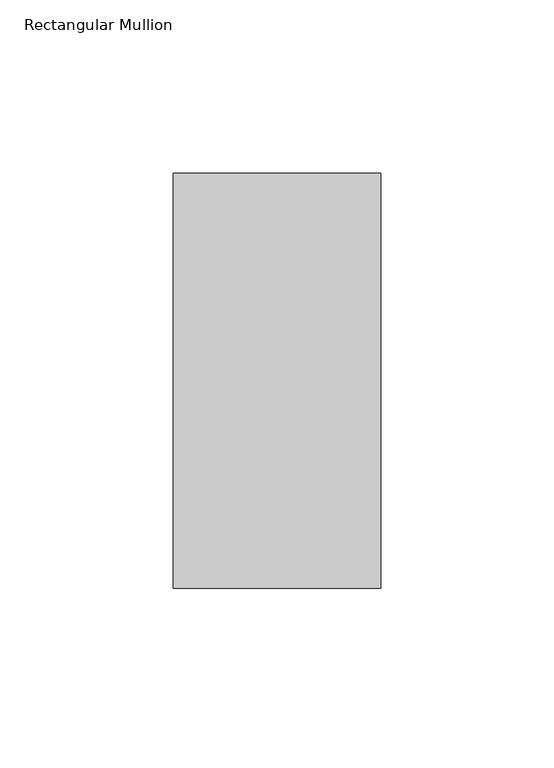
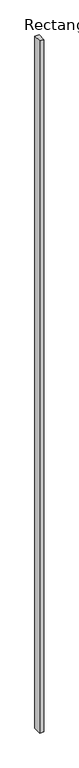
"""IFC4 building model written with IfcOpenShell, lengths in millimetres: member geometry, Rectangular Mullion : Terça."""

from ifc_helpers import new_model, si_unit, frame, origin, place, context, project, spatial, polyline, outline, extrude, source, transform, mapped, element, save


def rectangular_mullion_35f9c98c(model_context):
    return source(origin(), model_context, "Body", "SweptSolid", [
        extrude(outline(polyline([(-60.0, -120.0), (-60.0, 0.0), (0.0, 0.0), (0.0, -120.0), (-60.0, -120.0)])), frame((0.0, 0.0, -10700.006484), z_axis=(0.0, 0.0, 1.0), x_axis=(1.0, 0.0, 0.0)), (0.0, 0.0, 1.0), 10700.006484),
    ])


if __name__ == "__main__":
    model = new_model("IFC4")
    model_context = context("Model", 3, world=origin())
    ifc_project = project(units=[si_unit("LENGTHUNIT", "METRE", prefix="MILLI")], contexts=[model_context])
    site = spatial("IfcSite", under=ifc_project)
    building = spatial("IfcBuilding", under=site)
    placement = place(None, origin())
    rectangular_mullion_shape = rectangular_mullion_35f9c98c(model_context)
    element("IfcMember", 1, ObjectType="Rectangular Mullion : Terça", at=placement, inside=building, context=model_context, shape_type="MappedRepresentation", body=[
        mapped(rectangular_mullion_shape, transform((0.0, 0.0, 0.0), x_axis=(1.0, 0.0, 0.0), y_axis=(0.0, 1.0, 0.0), z_axis=(0.0, 0.0, 1.0))),
    ])
    save(model, "model.ifc")
